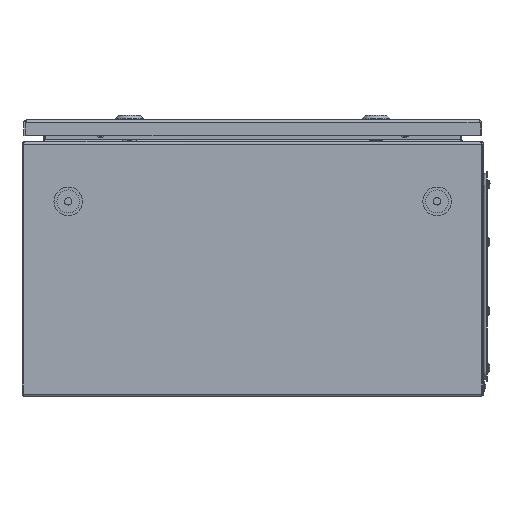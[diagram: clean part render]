
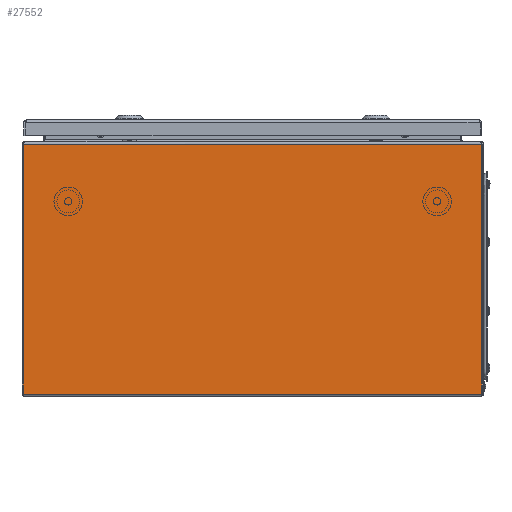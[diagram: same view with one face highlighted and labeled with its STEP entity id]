
A CAD part, left-side view. The second image highlights one B-rep face of the part: STEP entity #27552.
In plain terms, the highlighted planar face has unit normal (-1, 0, 0).
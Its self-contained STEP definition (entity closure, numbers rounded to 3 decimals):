
#379 = VECTOR ( 'NONE', #42975, 1000. ) ;
#850 = ORIENTED_EDGE ( 'NONE', *, *, #43899, .T. ) ;
#1193 = VECTOR ( 'NONE', #39326, 1000. ) ;
#1735 = AXIS2_PLACEMENT_3D ( 'NONE', #47898, #9088, #26478 ) ;
#1872 = VERTEX_POINT ( 'NONE', #17697 ) ;
#1932 = ORIENTED_EDGE ( 'NONE', *, *, #13528, .F. ) ;
#4312 = DIRECTION ( 'NONE',  ( 0., -1., 0. ) ) ;
#5633 = LINE ( 'NONE', #31879, #1193 ) ;
#6837 = VERTEX_POINT ( 'NONE', #20209 ) ;
#8391 = LINE ( 'NONE', #38104, #43668 ) ;
#8680 = ORIENTED_EDGE ( 'NONE', *, *, #47784, .F. ) ;
#8969 = EDGE_CURVE ( 'NONE', #1872, #43612, #5633, .T. ) ;
#9088 = DIRECTION ( 'NONE',  ( -1., 0., 0. ) ) ;
#13528 = EDGE_CURVE ( 'NONE', #45013, #51935, #8391, .T. ) ;
#13640 = VERTEX_POINT ( 'NONE', #43770 ) ;
#13873 = DIRECTION ( 'NONE',  ( 0., -1., 0. ) ) ;
#14549 = CARTESIAN_POINT ( 'NONE',  ( -250., 248.317, 123.85 ) ) ;
#16092 = EDGE_CURVE ( 'NONE', #1872, #45013, #40408, .T. ) ;
#17077 = CARTESIAN_POINT ( 'NONE',  ( -250., 248.317, 123.75 ) ) ;
#17521 = LINE ( 'NONE', #22389, #27006 ) ;
#17697 = CARTESIAN_POINT ( 'NONE',  ( -250., 248.5, 123.75 ) ) ;
#19488 = ORIENTED_EDGE ( 'NONE', *, *, #48619, .T. ) ;
#20209 = CARTESIAN_POINT ( 'NONE',  ( -250., -248.5, 123.75 ) ) ;
#20911 = CARTESIAN_POINT ( 'NONE',  ( -250., -248.317, 123.75 ) ) ;
#22389 = CARTESIAN_POINT ( 'NONE',  ( -250., 248.5, -147.1 ) ) ;
#24939 = DIRECTION ( 'NONE',  ( 0., 0., 1. ) ) ;
#25127 = LINE ( 'NONE', #55626, #27826 ) ;
#25388 = EDGE_CURVE ( 'NONE', #28460, #38376, #26665, .T. ) ;
#26478 = DIRECTION ( 'NONE',  ( 0., 0., 1. ) ) ;
#26665 = LINE ( 'NONE', #52933, #379 ) ;
#26970 = CARTESIAN_POINT ( 'NONE',  ( -250., 248.5, -147.1 ) ) ;
#27006 = VECTOR ( 'NONE', #38688, 1000. ) ;
#27552 = ADVANCED_FACE ( 'NONE', ( #34776 ), #29658, .T. ) ;
#27826 = VECTOR ( 'NONE', #4312, 1000. ) ;
#27856 = CARTESIAN_POINT ( 'NONE',  ( -250., 248.5, 123.75 ) ) ;
#28460 = VERTEX_POINT ( 'NONE', #52551 ) ;
#29658 = PLANE ( 'NONE',  #1735 ) ;
#29986 = EDGE_LOOP ( 'NONE', ( #8680, #1932, #34283, #46138, #19488, #39103, #850, #41328 ) ) ;
#30156 = VECTOR ( 'NONE', #40170, 1000. ) ;
#31879 = CARTESIAN_POINT ( 'NONE',  ( -250., 248.5, -150. ) ) ;
#34283 = ORIENTED_EDGE ( 'NONE', *, *, #16092, .F. ) ;
#34776 = FACE_OUTER_BOUND ( 'NONE', #29986, .T. ) ;
#38104 = CARTESIAN_POINT ( 'NONE',  ( -250., 248.317, -150. ) ) ;
#38376 = VERTEX_POINT ( 'NONE', #20911 ) ;
#38688 = DIRECTION ( 'NONE',  ( 0., -1., 0. ) ) ;
#39103 = ORIENTED_EDGE ( 'NONE', *, *, #56286, .F. ) ;
#39326 = DIRECTION ( 'NONE',  ( 0., 0., -1. ) ) ;
#39491 = VECTOR ( 'NONE', #13873, 1000. ) ;
#39906 = CARTESIAN_POINT ( 'NONE',  ( -250., -248.5, -150. ) ) ;
#40170 = DIRECTION ( 'NONE',  ( 0., 0., -1. ) ) ;
#40408 = LINE ( 'NONE', #27856, #39491 ) ;
#41328 = ORIENTED_EDGE ( 'NONE', *, *, #25388, .F. ) ;
#42072 = CARTESIAN_POINT ( 'NONE',  ( -250., 248.5, 123.75 ) ) ;
#42640 = DIRECTION ( 'NONE',  ( 0., 1., 0. ) ) ;
#42975 = DIRECTION ( 'NONE',  ( 0., 0., -1. ) ) ;
#43353 = VECTOR ( 'NONE', #42640, 1000. ) ;
#43612 = VERTEX_POINT ( 'NONE', #26970 ) ;
#43668 = VECTOR ( 'NONE', #24939, 1000. ) ;
#43770 = CARTESIAN_POINT ( 'NONE',  ( -250., -248.5, -147.1 ) ) ;
#43899 = EDGE_CURVE ( 'NONE', #6837, #38376, #50646, .T. ) ;
#45013 = VERTEX_POINT ( 'NONE', #17077 ) ;
#46138 = ORIENTED_EDGE ( 'NONE', *, *, #8969, .T. ) ;
#47784 = EDGE_CURVE ( 'NONE', #51935, #28460, #25127, .T. ) ;
#47898 = CARTESIAN_POINT ( 'NONE',  ( -250., 248.5, -150. ) ) ;
#48619 = EDGE_CURVE ( 'NONE', #43612, #13640, #17521, .T. ) ;
#50646 = LINE ( 'NONE', #42072, #43353 ) ;
#51935 = VERTEX_POINT ( 'NONE', #14549 ) ;
#52165 = LINE ( 'NONE', #39906, #30156 ) ;
#52551 = CARTESIAN_POINT ( 'NONE',  ( -250., -248.317, 123.85 ) ) ;
#52933 = CARTESIAN_POINT ( 'NONE',  ( -250., -248.317, -150. ) ) ;
#55626 = CARTESIAN_POINT ( 'NONE',  ( -250., 248.5, 123.85 ) ) ;
#56286 = EDGE_CURVE ( 'NONE', #6837, #13640, #52165, .T. ) ;
